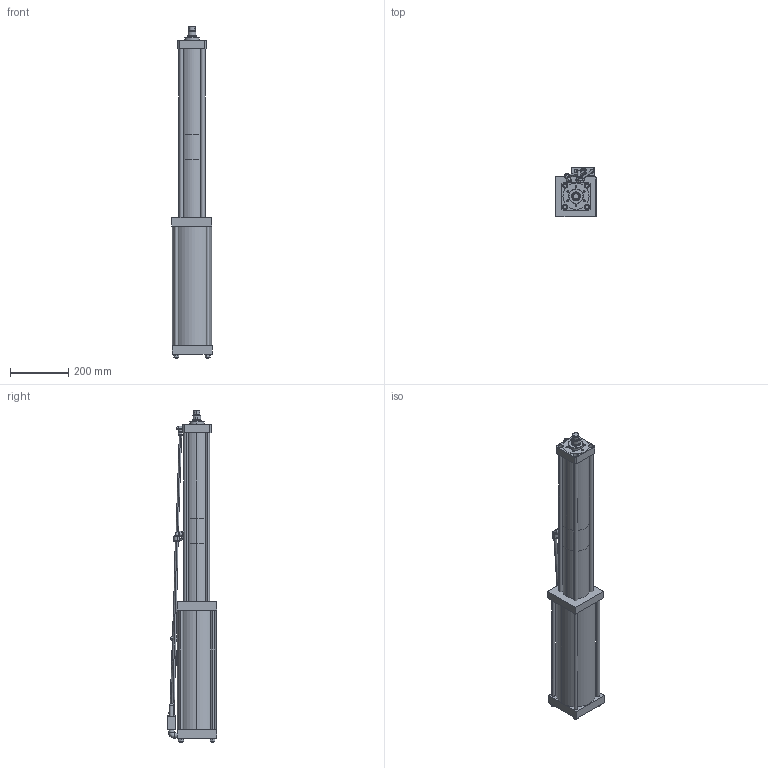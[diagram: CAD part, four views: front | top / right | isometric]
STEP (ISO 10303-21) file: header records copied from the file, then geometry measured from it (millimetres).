
FILE_DESCRIPTION (( 'STEP AP214' ), '1' );
FILE_NAME ('BS04-250-24S.STEP', '2025-09-22T11:34:54', ( 'Ranlm' ), ( '' ), 'SwSTEP 2.0', 'SolidWorks 2022', '' );
FILE_SCHEMA (( 'AUTOMOTIVE_DESIGN' ));
Length unit declared in the file: millimetre
Products named in the file (1): BS04-250-24S
Bounding box: 139 x 172 x 1143.7 mm (x, y, z)
Volume: 11796383 mm3; surface area: 822106.2 mm2
Topology: 31 solids, 32 shells, 580 faces, 1273 edges, 781 vertices
Faces by surface type: plane 264, cylinder 196, cone 70, torus 38, bspline 10, sphere 2
Entity records: 23731 total; most frequent: CARTESIAN_POINT 4053, DIRECTION 2903, ORIENTED_EDGE 2490, EDGE_CURVE 1245, AXIS2_PLACEMENT_3D 1136, VERTEX_POINT 779, EDGE_LOOP 654, LINE 631
